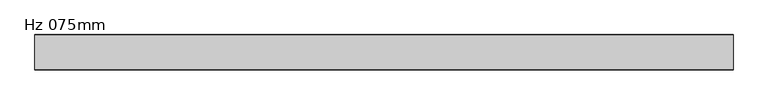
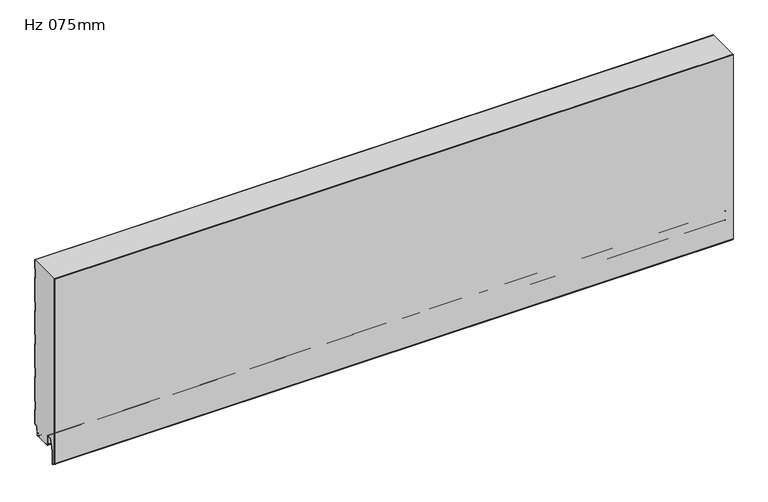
"""IFC4 building model written with IfcOpenShell, lengths in millimetres: plate geometry, KIP-MEX-KW-R19-CP-Hz-KW1_SL : Hz 075mm."""

from ifc_helpers import new_model, si_unit, point, frame, frame_2d, origin, place, context, project, spatial, polyline, circle_curve, trimmed, segment, composite_curve, outline, extrude, source, transform, mapped, element, save


def hz_075mm_503976a9(model_context):
    return source(origin(), model_context, "Body", "SweptSolid", [
        extrude(outline(composite_curve([segment(polyline([(-14.168539, 7.9539868), (-13.6621069, 2.1654409)]), True, "CONTINUOUS"), segment(trimmed(circle_curve(frame_2d((-11.1716202, 2.3833303)), 2.5), [point((-13.6621069, 2.1654409))], [point((-11.9264293, 0.0))], True, "CARTESIAN"), True, "CONTINUOUS"), segment(polyline([(-11.9264293, 0.0), (-43.737817, 0.0)]), True, "CONTINUOUS"), segment(trimmed(circle_curve(frame_2d((-43.737817, 2.4986532)), 2.4986532), [point((-43.737817, 0.0))], [point((-41.2391638, 2.4986532))], True, "CARTESIAN"), True, "CONTINUOUS"), segment(polyline([(-41.2391638, 2.4986532), (-41.2391638, 6.9975309), (-42.2393619, 6.9975309), (-42.2393619, 2.4989009)]), True, "CONTINUOUS"), segment(trimmed(circle_curve(frame_2d((-43.737718, 2.4989009)), 1.4983561), [point((-42.2393619, 2.4989009))], [point((-43.737718, 1.0005448))], False, "CARTESIAN"), True, "CONTINUOUS"), segment(polyline([(-43.737718, 1.0005448), (-45.2871287, 1.0005448)]), True, "CONTINUOUS"), segment(trimmed(circle_curve(frame_2d((-45.2871287, 2.4946541)), 1.4941093), [point((-45.2871287, 1.0005448))], [point((-46.781238, 2.4946541))], False, "CARTESIAN"), True, "CONTINUOUS"), segment(polyline([(-46.781238, 2.4946541), (-46.781238, 21.0181667)]), True, "CONTINUOUS"), segment(trimmed(circle_curve(frame_2d((-49.8021238, 21.0181667)), 3.0208858), [point((-46.781238, 21.0181667))], [point((-49.8021238, 24.0390526))], True, "CARTESIAN"), True, "CONTINUOUS"), segment(polyline([(-49.8021238, 24.0390526), (-57.2693804, 24.0390526)]), True, "CONTINUOUS"), segment(trimmed(circle_curve(frame_2d((-57.2693804, 21.0499553)), 2.9890972), [point((-57.2693804, 24.0390526))], [point((-60.1423641, 21.8749809))], True, "CARTESIAN"), True, "CONTINUOUS"), segment(polyline([(-60.1423641, 21.8749809), (-67.2405983, -2.8431766), (-67.2405983, -31.2013392), (-73.9952121, -25.9234803), (-73.9952121, 400.0520896), (-0.9944609, 400.0520896), (-0.9944609, 379.6094183), (-2.1939601, 378.522894), (-2.1939601, 358.5909157), (-0.9944609, 357.5058172), (-0.9944609, 303.4565335), (-2.1939601, 302.3700093), (-2.1939601, 282.4380309), (-0.9944609, 281.3529324), (-0.9944609, 227.3036488), (-2.1939601, 226.2171245), (-2.1939601, 206.2851462), (-0.9944609, 205.2000477), (-0.9944609, 151.150764), (-2.1939601, 150.0642397), (-2.1939601, 130.1322614), (-0.9944609, 129.0471629), (-0.9944609, 74.9978793), (-2.1939601, 73.911355), (-2.1939601, 53.9793766), (-0.9952121, 52.8942781), (-0.9952121, 21.2882606), (-4.4952121, 21.2882606)]), True, "CONTINUOUS"), segment(trimmed(circle_curve(frame_2d((-4.4952121, 18.2882606)), 3.0), [point((-4.4952121, 21.2882606))], [point((-7.4839175, 18.5483373))], True, "CARTESIAN"), True, "CONTINUOUS"), segment(polyline([(-7.4839175, 18.5483373), (-8.9019103, 2.2532919)]), True, "CONTINUOUS"), segment(trimmed(circle_curve(frame_2d((-10.396263, 2.3833303)), 1.4999999), [point((-8.9019103, 2.2532919))], [point((-9.8221897, 0.997531))], False, "CARTESIAN"), True, "CONTINUOUS"), segment(polyline([(-9.8221897, 0.997531), (-11.7456936, 0.997531)]), True, "CONTINUOUS"), segment(trimmed(circle_curve(frame_2d((-11.1716202, 2.3833303)), 1.5), [point((-11.7456936, 0.997531))], [point((-12.6659122, 2.2525966))], False, "CARTESIAN"), True, "CONTINUOUS"), segment(polyline([(-12.6659122, 2.2525966), (-13.1723443, 8.0411425), (-14.168539, 7.9539868)]), True, "CONTINUOUS")], self_intersect=False)), frame((-740.0, 0.0, 0.0), z_axis=(1.0, 0.0, 0.0), x_axis=(0.0, 1.0, 0.0)), (0.0, 0.0, 1.0), 1480.0),
        extrude(outline(composite_curve([segment(polyline([(-1.1923863, 378.0794496), (-1.1923863, 359.0343601), (0.0055391, 357.9478358), (0.0055391, 303.0116636), (-1.1923863, 301.9265649), (-1.1923863, 282.8814753), (0.0055391, 281.794951), (0.0055391, 226.8587788), (-1.1923863, 225.7736801), (-1.1923863, 206.7285905), (0.0055391, 205.6420663), (0.0055391, 150.7058941), (-1.1923863, 149.6207954), (-1.1923863, 130.5757058), (0.0071129, 129.4891815), (0.0071129, 74.5544349), (-1.1923863, 73.4679106), (-1.1923863, 54.422821), (0.0, 53.3377223), (0.0, 21.7710722)]), True, "CONTINUOUS"), segment(trimmed(circle_curve(frame_2d((-1.4908763, 21.7710722)), 1.4908762), [point((0.0, 21.7710722))], [point((-1.4908763, 20.280196))], False, "CARTESIAN"), True, "CONTINUOUS"), segment(polyline([(-1.4908763, 20.280196), (-4.495104, 20.280196)]), True, "CONTINUOUS"), segment(trimmed(circle_curve(frame_2d((-4.495104, 18.2846098)), 1.9955862), [point((-4.495104, 20.280196))], [point((-6.4831424, 18.4580093))], True, "CARTESIAN"), True, "CONTINUOUS"), segment(polyline([(-6.4831424, 18.4580093), (-7.9041448, 2.1661016)]), True, "CONTINUOUS"), segment(trimmed(circle_curve(frame_2d((-10.3946892, 2.3833303)), 2.4999999), [point((-7.9041448, 2.1661016))], [point((-9.647721, -0.002469))], False, "CARTESIAN"), True, "CONTINUOUS"), segment(polyline([(-9.647721, -0.002469), (-11.9170147, -0.002469)]), True, "CONTINUOUS"), segment(trimmed(circle_curve(frame_2d((-11.1700464, 2.3833303)), 2.5), [point((-11.9170147, -0.002469))], [point((-13.6605331, 2.1654409))], False, "CARTESIAN"), True, "CONTINUOUS"), segment(polyline([(-13.6605331, 2.1654409), (-14.1669652, 7.9539868), (-13.1707705, 8.0411425), (-12.6643384, 2.2525966)]), True, "CONTINUOUS"), segment(trimmed(circle_curve(frame_2d((-11.1700464, 2.3833303)), 1.5), [point((-12.6643384, 2.2525966))], [point((-11.7441198, 0.997531))], True, "CARTESIAN"), True, "CONTINUOUS"), segment(polyline([(-11.7441198, 0.997531), (-9.8206159, 0.997531)]), True, "CONTINUOUS"), segment(trimmed(circle_curve(frame_2d((-10.3946892, 2.3833303)), 1.4999999), [point((-9.8206159, 0.997531))], [point((-8.9003365, 2.2532919))], True, "CARTESIAN"), True, "CONTINUOUS"), segment(polyline([(-8.9003365, 2.2532919), (-7.4823437, 18.5483373)]), True, "CONTINUOUS"), segment(trimmed(circle_curve(frame_2d((-4.4936383, 18.2882606)), 3.0), [point((-7.4823437, 18.5483373))], [point((-4.4936383, 21.2882606))], False, "CARTESIAN"), True, "CONTINUOUS"), segment(polyline([(-4.4936383, 21.2882606), (-0.9936383, 21.2882606), (-0.9936383, 52.8942781), (-2.1923863, 53.9793766), (-2.1923863, 73.911355), (-0.9928871, 74.9978793), (-0.9928871, 129.0457371), (-2.1923863, 130.1322614), (-2.1923863, 150.0642397), (-0.9928871, 151.150764), (-0.9928871, 205.1986219), (-2.1923863, 206.2851462), (-2.1923863, 226.2171245), (-0.9928871, 227.3036488), (-0.9928871, 281.3515066), (-2.1923863, 282.4380309), (-2.1923863, 302.3700093), (-0.9928871, 303.4565335), (-0.9928871, 357.5043914), (-2.1923863, 358.5909157), (-2.1923863, 378.522894), (-0.9928871, 379.6094183), (-0.9928871, 400.0520896), (0.0055391, 400.0520896), (0.0055391, 379.1645483), (-1.1923863, 378.0794496)]), True, "CONTINUOUS")], self_intersect=False)), frame((-740.0, 0.0, 0.0), z_axis=(1.0, 0.0, 0.0), x_axis=(0.0, 1.0, 0.0)), (0.0, 0.0, 1.0), 1480.0),
        extrude(outline(composite_curve([segment(polyline([(-74.9944609, -25.1919066), (-74.9944609, 400.0520896), (-73.9944609, 400.0520896), (-73.9944609, -25.9234803), (-67.2398472, -31.2013392), (-67.2398472, -2.8431766), (-60.1416127, 21.8749808)]), True, "CONTINUOUS"), segment(trimmed(circle_curve(frame_2d((-57.2686293, 21.0499553)), 2.9890972), [point((-60.1416127, 21.8749808))], [point((-57.2686293, 24.0390526))], False, "CARTESIAN"), True, "CONTINUOUS"), segment(polyline([(-57.2686293, 24.0390526), (-49.8013727, 24.0390526)]), True, "CONTINUOUS"), segment(trimmed(circle_curve(frame_2d((-49.8013727, 21.0181667)), 3.0208858), [point((-49.8013727, 24.0390526))], [point((-46.7804868, 21.0181667))], False, "CARTESIAN"), True, "CONTINUOUS"), segment(polyline([(-46.7804868, 21.0181667), (-46.7804868, 2.4946541)]), True, "CONTINUOUS"), segment(trimmed(circle_curve(frame_2d((-45.2863776, 2.4946541)), 1.4941093), [point((-46.7804868, 2.4946541))], [point((-45.2863776, 1.0005448))], True, "CARTESIAN"), True, "CONTINUOUS"), segment(polyline([(-45.2863776, 1.0005448), (-43.7369668, 1.0005448)]), True, "CONTINUOUS"), segment(trimmed(circle_curve(frame_2d((-43.7369668, 2.4989009)), 1.4983561), [point((-43.7369668, 1.0005448))], [point((-42.2386107, 2.4989009))], True, "CARTESIAN"), True, "CONTINUOUS"), segment(polyline([(-42.2386107, 2.4989009), (-42.2386107, 6.9975309), (-41.2384126, 6.9975309), (-41.2384126, 2.4986532)]), True, "CONTINUOUS"), segment(trimmed(circle_curve(frame_2d((-43.7370659, 2.4986532)), 2.4986532), [point((-41.2384126, 2.4986532))], [point((-43.7370659, 0.0))], False, "CARTESIAN"), True, "CONTINUOUS"), segment(polyline([(-43.7370659, 0.0), (-45.3087755, 0.0)]), True, "CONTINUOUS"), segment(trimmed(circle_curve(frame_2d((-45.2873377, 2.4950818)), 2.4951739), [point((-45.3087755, 0.0))], [point((-47.7825116, 2.4950818))], False, "CARTESIAN"), True, "CONTINUOUS"), segment(polyline([(-47.7825116, 2.4950818), (-47.7825116, 21.0262634)]), True, "CONTINUOUS"), segment(trimmed(circle_curve(frame_2d((-49.799282, 21.0262634)), 2.0167704), [point((-47.7825116, 21.0262634))], [point((-49.799282, 23.0430338))], True, "CARTESIAN"), True, "CONTINUOUS"), segment(polyline([(-49.799282, 23.0430338), (-57.2679288, 23.0430338)]), True, "CONTINUOUS"), segment(trimmed(circle_curve(frame_2d((-57.2679288, 21.0517509)), 1.9912829), [point((-57.2679288, 23.0430338))], [point((-59.1819009, 21.6012219))], True, "CARTESIAN"), True, "CONTINUOUS"), segment(polyline([(-59.1819009, 21.6012219), (-66.2398454, -2.9837112), (-66.2398454, -31.1745677)]), True, "CONTINUOUS"), segment(trimmed(circle_curve(frame_2d((-67.239487, -31.2013392)), 1.0), [point((-66.2398454, -31.1745677))], [point((-67.8551698, -31.9893333))], False, "CARTESIAN"), True, "CONTINUOUS"), segment(polyline([(-67.8551698, -31.9893333), (-74.033668, -27.1618918)]), True, "CONTINUOUS"), segment(trimmed(circle_curve(frame_2d((-72.4944609, -25.1919066)), 2.5), [point((-74.033668, -27.1618918))], [point((-74.9944609, -25.1919066))], False, "CARTESIAN"), True, "CONTINUOUS")], self_intersect=False)), frame((-740.0, 0.0, 0.0), z_axis=(1.0, 0.0, 0.0), x_axis=(0.0, 1.0, 0.0)), (0.0, 0.0, 1.0), 1480.0),
    ])


if __name__ == "__main__":
    model = new_model("IFC4")
    model_context = context("Model", 3, world=origin())
    ifc_project = project(units=[si_unit("LENGTHUNIT", "METRE", prefix="MILLI")], contexts=[model_context])
    site = spatial("IfcSite", under=ifc_project)
    building = spatial("IfcBuilding", under=site)
    placement = place(None, origin())
    hz_075mm_shape = hz_075mm_503976a9(model_context)
    element("IfcPlate", 1, ObjectType="KIP-MEX-KW-R19-CP-Hz-KW1_SL : Hz 075mm", at=placement, inside=building, context=model_context, shape_type="MappedRepresentation", body=[
        mapped(hz_075mm_shape, transform((0.0, 0.0, 0.0), x_axis=(1.0, 0.0, 0.0), y_axis=(0.0, 1.0, 0.0), z_axis=(0.0, 0.0, 1.0))),
    ])
    save(model, "model.ifc")
